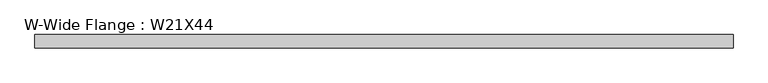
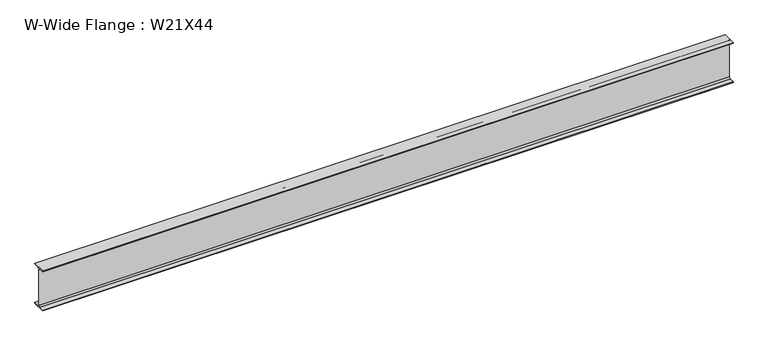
"""IFC4 building model written with IfcOpenShell, lengths in millimetres: beam geometry, W-Wide Flange : W21X44."""

from ifc_helpers import new_model, si_unit, point, frame, frame_2d, origin, place, context, project, spatial, polyline, circle_curve, trimmed, segment, composite_curve, outline, extrude, source, transform, mapped, element, save


def w_wide_flange_w21x44_87bcda2b(model_context):
    return source(origin(), model_context, "Body", "SweptSolid", [
        extrude(outline(composite_curve([segment(polyline([(82.55, -251.46), (82.55, -262.89), (-82.55, -262.89), (-82.55, -251.46), (-21.59, -251.46)]), True, "CONTINUOUS"), segment(trimmed(circle_curve(frame_2d((-21.59, -234.315)), 17.145), [point((-21.59, -251.46))], [point((-4.445, -234.315))], True, "CARTESIAN"), True, "CONTINUOUS"), segment(polyline([(-4.445, -234.315), (-4.445, 234.315)]), True, "CONTINUOUS"), segment(trimmed(circle_curve(frame_2d((-21.59, 234.315)), 17.145), [point((-4.445, 234.315))], [point((-21.59, 251.46))], True, "CARTESIAN"), True, "CONTINUOUS"), segment(polyline([(-21.59, 251.46), (-82.55, 251.46), (-82.55, 262.89), (82.55, 262.89), (82.55, 251.46), (21.59, 251.46)]), True, "CONTINUOUS"), segment(trimmed(circle_curve(frame_2d((21.59, 234.315)), 17.145), [point((21.59, 251.46))], [point((4.445, 234.315))], True, "CARTESIAN"), True, "CONTINUOUS"), segment(polyline([(4.445, 234.315), (4.445, -234.315)]), True, "CONTINUOUS"), segment(trimmed(circle_curve(frame_2d((21.59, -234.315)), 17.145), [point((4.445, -234.315))], [point((21.59, -251.46))], True, "CARTESIAN"), True, "CONTINUOUS"), segment(polyline([(21.59, -251.46), (82.55, -251.46)]), True, "CONTINUOUS")], self_intersect=False)), frame((-4220.21, 0.0, 0.0), z_axis=(1.0, 0.0, 0.0), x_axis=(0.0, 1.0, 0.0)), (0.0, 0.0, 1.0), 8544.56),
    ])


if __name__ == "__main__":
    model = new_model("IFC4")
    model_context = context("Model", 3, world=origin())
    ifc_project = project(units=[si_unit("LENGTHUNIT", "METRE", prefix="MILLI")], contexts=[model_context])
    site = spatial("IfcSite", under=ifc_project)
    building = spatial("IfcBuilding", under=site)
    placement = place(None, origin())
    w_wide_flange_w21x44_shape = w_wide_flange_w21x44_87bcda2b(model_context)
    element("IfcBeam", 1, ObjectType="W-Wide Flange : W21X44", at=placement, inside=building, context=model_context, shape_type="MappedRepresentation", body=[
        mapped(w_wide_flange_w21x44_shape, transform((0.0, 0.0, 0.0), x_axis=(1.0, 0.0, 0.0), y_axis=(0.0, 1.0, 0.0), z_axis=(0.0, 0.0, 1.0))),
    ])
    save(model, "model.ifc")
